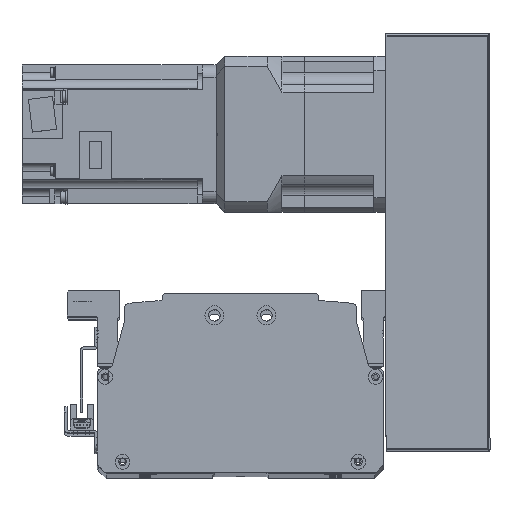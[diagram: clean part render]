
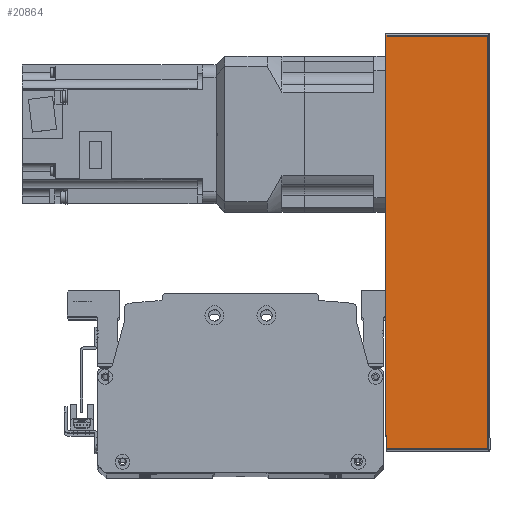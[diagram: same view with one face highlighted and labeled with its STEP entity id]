
A CAD part, top view. The second image highlights one B-rep face of the part: STEP entity #20864.
In plain terms, the highlighted planar face has unit normal (0, 0, 1) as drawn and (0, -1, 0) by its records, which use the part's own axes.
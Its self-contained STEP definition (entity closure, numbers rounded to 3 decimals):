
#566=PLANE('',#22748);
#1684=LINE('',#33157,#3344);
#1710=LINE('',#33253,#3370);
#1711=LINE('',#33261,#3371);
#1718=LINE('',#33286,#3378);
#3344=VECTOR('',#26975,10.);
#3370=VECTOR('',#27093,10.);
#3371=VECTOR('',#27104,10.);
#3378=VECTOR('',#27139,10.);
#5395=FACE_OUTER_BOUND('',#6855,.T.);
#6855=EDGE_LOOP('',(#16396,#16397,#16398,#16399));
#9737=VERTEX_POINT('',#33154);
#9738=VERTEX_POINT('',#33156);
#9762=VERTEX_POINT('',#33249);
#9763=VERTEX_POINT('',#33255);
#12104=EDGE_CURVE('',#9738,#9737,#1684,.T.);
#12154=EDGE_CURVE('',#9737,#9762,#1710,.T.);
#12158=EDGE_CURVE('',#9763,#9738,#1711,.T.);
#12171=EDGE_CURVE('',#9762,#9763,#1718,.T.);
#16396=ORIENTED_EDGE('',*,*,#12154,.T.);
#16397=ORIENTED_EDGE('',*,*,#12171,.T.);
#16398=ORIENTED_EDGE('',*,*,#12158,.T.);
#16399=ORIENTED_EDGE('',*,*,#12104,.T.);
#20864=ADVANCED_FACE('',(#5395),#566,.F.);
#22748=AXIS2_PLACEMENT_3D('',#33292,#27149,#27150);
#26975=DIRECTION('',(1.,0.,0.));
#27093=DIRECTION('',(0.,0.,1.));
#27104=DIRECTION('',(0.,0.,-1.));
#27139=DIRECTION('',(-1.,0.,0.));
#27149=DIRECTION('center_axis',(0.,1.,0.));
#27150=DIRECTION('ref_axis',(1.,0.,0.));
#33154=CARTESIAN_POINT('',(119.5,-51.,-30.));
#33156=CARTESIAN_POINT('',(-119.5,-51.,-30.));
#33157=CARTESIAN_POINT('',(120.5,-51.,-30.));
#33249=CARTESIAN_POINT('',(119.5,-51.,29.));
#33253=CARTESIAN_POINT('',(119.5,-51.,0.));
#33255=CARTESIAN_POINT('',(-119.5,-51.,29.));
#33261=CARTESIAN_POINT('',(-119.5,-51.,0.));
#33286=CARTESIAN_POINT('',(-60.25,-51.,29.));
#33292=CARTESIAN_POINT('Origin',(-120.5,-51.,0.));
